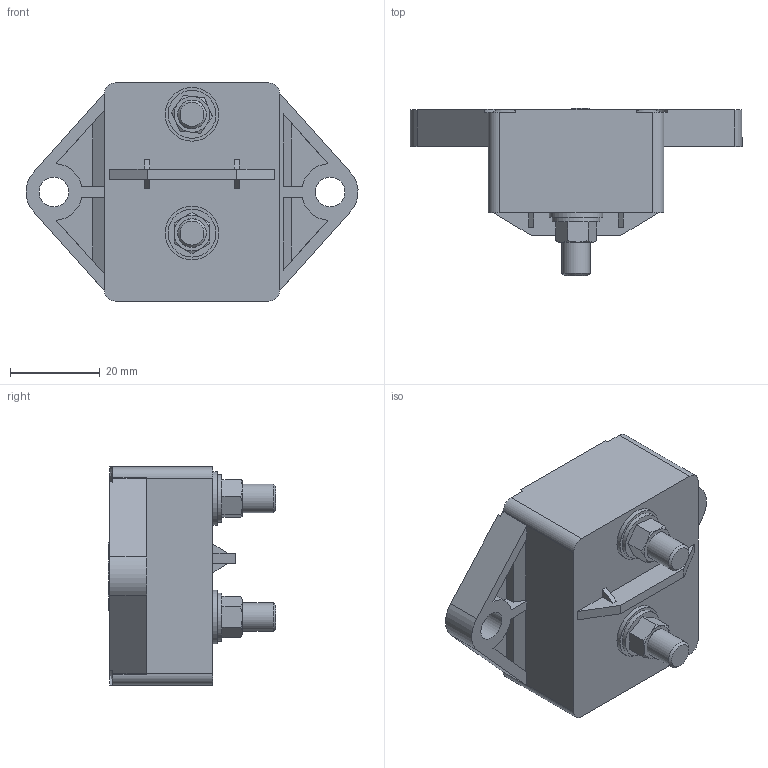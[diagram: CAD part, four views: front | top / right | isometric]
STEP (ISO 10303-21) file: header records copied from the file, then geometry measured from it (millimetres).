
FILE_DESCRIPTION(/* description */ (''),/* implementation_level */ '2;1');
FILE_NAME(/* name */ 'C:\Users\Hani\Desktop\work\141\141 Circuit Breaker.stp',/* time_stamp */ '2021-07-06T10:45:35-07:00',/* author */ ('Hani'),/* organization */ (''),/* preprocessor_version */ 'ST-DEVELOPER v17',/* originating_system */ 'Autodesk Inventor 2019',/* authorisation */ '');
FILE_SCHEMA (('AUTOMOTIVE_DESIGN { 1 0 10303 214 3 1 1 }'));
Length unit declared in the file: inch
Products named in the file (3): Manual_Reset_Circuit_Breaker; Circuit_Breaker; FLANGED_NUT
Assembly tree (3 placements, depth 2):
  Manual_Reset_Circuit_Breaker
    Circuit_Breaker
    FLANGED_NUT  x2
Bounding box: 73.87 x 37.18 x 48.51 mm (x, y, z)
Volume: 50399.1 mm3; surface area: 12165.8 mm2
Topology: 3 solids, 3 shells, 323 faces, 861 edges, 573 vertices
Faces by surface type: plane 152, bspline 111, cylinder 42, cone 14, sphere 4
Full cylindrical faces by diameter (mm): 5.172 x8, 6.35 x2, 6.604 x2, 10.668 x2, 11.938 x2
Entity records: 12613 total; most frequent: CARTESIAN_POINT 6125, ORIENTED_EDGE 1484, DIRECTION 1009, EDGE_CURVE 742, VERTEX_POINT 495, LINE 459, VECTOR 459, EDGE_LOOP 313
